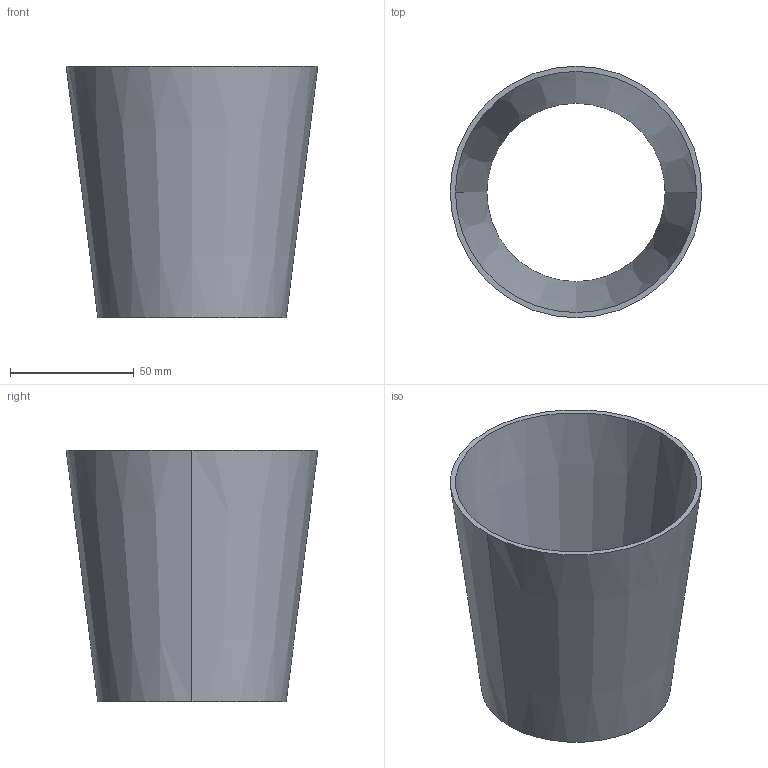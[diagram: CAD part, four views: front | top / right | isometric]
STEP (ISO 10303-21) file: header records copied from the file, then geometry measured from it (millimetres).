
FILE_DESCRIPTION (( 'STEP AP214' ), '1' );
FILE_NAME ('E31WW 4.0X3.0 REV2.STEP', '2025-07-29T15:03:15', ( '' ), ( '' ), 'SwSTEP 2.0', 'SolidWorks 2022', '' );
FILE_SCHEMA (( 'AUTOMOTIVE_DESIGN' ));
Length unit declared in the file: inch
Products named in the file (1): E31WW 4.0X3.0 REV2
Bounding box: 101.6 x 101.6 x 101.6 mm (x, y, z)
Volume: 58402.9 mm3; surface area: 56986.3 mm2
Topology: 1 solids, 1 shells, 6 faces, 12 edges, 8 vertices
Faces by surface type: cone 4, plane 2
Entity records: 208 total; most frequent: DIRECTION 34, CARTESIAN_POINT 27, ORIENTED_EDGE 24, AXIS2_PLACEMENT_3D 15, EDGE_CURVE 12, VERTEX_POINT 8, EDGE_LOOP 8, CIRCLE 8
